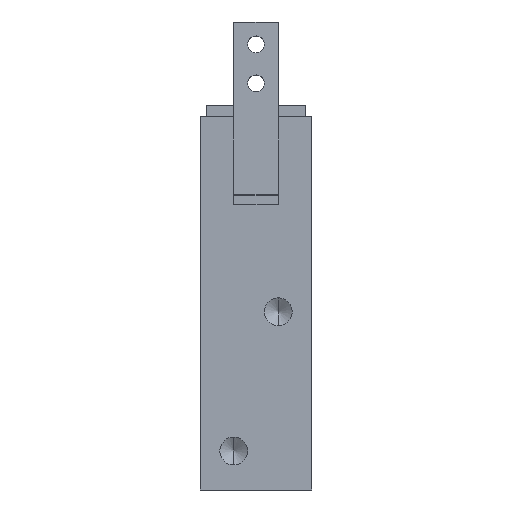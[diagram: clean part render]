
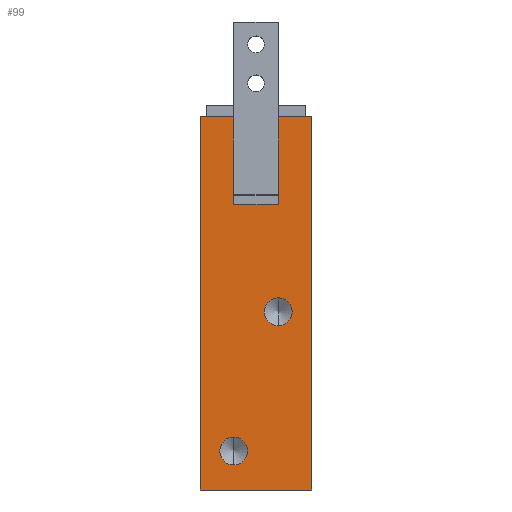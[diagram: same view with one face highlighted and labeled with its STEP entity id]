
A CAD part, front view. The second image highlights one B-rep face of the part: STEP entity #99.
In plain terms, the highlighted planar face has unit normal (0, -1, 0).
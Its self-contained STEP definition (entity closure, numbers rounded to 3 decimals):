
#29 = LINE ( 'NONE', #4638, #1758 ) ;
#99 = ADVANCED_FACE ( 'NONE', ( #607, #3711, #4543 ), #624, .F. ) ;
#125 = LINE ( 'NONE', #330, #4253 ) ;
#180 = LINE ( 'NONE', #2531, #3538 ) ;
#201 = ORIENTED_EDGE ( 'NONE', *, *, #4355, .F. ) ;
#214 = DIRECTION ( 'NONE',  ( 0., -1., 0. ) ) ;
#321 = LINE ( 'NONE', #2600, #3567 ) ;
#328 = EDGE_LOOP ( 'NONE', ( #3831, #1230, #1485, #922, #2419, #2565, #4412, #3338 ) ) ;
#330 = CARTESIAN_POINT ( 'NONE',  ( -10., -19., 67. ) ) ;
#349 = VERTEX_POINT ( 'NONE', #4390 ) ;
#351 = LINE ( 'NONE', #864, #3890 ) ;
#393 = EDGE_CURVE ( 'NONE', #2476, #4490, #3353, .T. ) ;
#494 = CARTESIAN_POINT ( 'NONE',  ( 10., -19., 67. ) ) ;
#534 = DIRECTION ( 'NONE',  ( 0., 0., -1. ) ) ;
#558 = CARTESIAN_POINT ( 'NONE',  ( 4., -19., 51.3 ) ) ;
#568 = CIRCLE ( 'NONE', #3187, 2.5 ) ;
#607 = FACE_BOUND ( 'NONE', #3897, .T. ) ;
#624 = PLANE ( 'NONE',  #3692 ) ;
#723 = DIRECTION ( 'NONE',  ( 1., 0., 0. ) ) ;
#819 = DIRECTION ( 'NONE',  ( -1., 0., 0. ) ) ;
#864 = CARTESIAN_POINT ( 'NONE',  ( 10., -19., 67. ) ) ;
#922 = ORIENTED_EDGE ( 'NONE', *, *, #4479, .F. ) ;
#1007 = DIRECTION ( 'NONE',  ( 0., 1., 0. ) ) ;
#1017 = CARTESIAN_POINT ( 'NONE',  ( -10., -19., 67. ) ) ;
#1061 = EDGE_CURVE ( 'NONE', #4385, #2871, #1727, .T. ) ;
#1072 = CARTESIAN_POINT ( 'NONE',  ( 4., -19., 29.5 ) ) ;
#1077 = AXIS2_PLACEMENT_3D ( 'NONE', #4293, #3639, #3976 ) ;
#1136 = CIRCLE ( 'NONE', #1077, 2.5 ) ;
#1157 = CARTESIAN_POINT ( 'NONE',  ( -4., -19., 7. ) ) ;
#1171 = CARTESIAN_POINT ( 'NONE',  ( -10., -19., 0. ) ) ;
#1230 = ORIENTED_EDGE ( 'NONE', *, *, #2359, .T. ) ;
#1312 = DIRECTION ( 'NONE',  ( 0., 0., -1. ) ) ;
#1468 = CARTESIAN_POINT ( 'NONE',  ( 4., -19., 34.5 ) ) ;
#1485 = ORIENTED_EDGE ( 'NONE', *, *, #2925, .T. ) ;
#1517 = VERTEX_POINT ( 'NONE', #2779 ) ;
#1666 = EDGE_CURVE ( 'NONE', #2275, #349, #29, .T. ) ;
#1727 = CIRCLE ( 'NONE', #3974, 2.5 ) ;
#1758 = VECTOR ( 'NONE', #2495, 1000. ) ;
#1809 = DIRECTION ( 'NONE',  ( 1., 0., 0. ) ) ;
#1862 = VERTEX_POINT ( 'NONE', #2196 ) ;
#1907 = DIRECTION ( 'NONE',  ( 0., 0., -1. ) ) ;
#1940 = DIRECTION ( 'NONE',  ( 0., -1., 0. ) ) ;
#1998 = CIRCLE ( 'NONE', #3399, 2.5 ) ;
#2147 = ORIENTED_EDGE ( 'NONE', *, *, #3148, .F. ) ;
#2148 = CARTESIAN_POINT ( 'NONE',  ( -10., -19., 67. ) ) ;
#2153 = VERTEX_POINT ( 'NONE', #494 ) ;
#2158 = CARTESIAN_POINT ( 'NONE',  ( -4., -19., 4.5 ) ) ;
#2194 = CARTESIAN_POINT ( 'NONE',  ( -4., -19., 51.3 ) ) ;
#2196 = CARTESIAN_POINT ( 'NONE',  ( -4., -19., 67. ) ) ;
#2229 = LINE ( 'NONE', #2148, #2518 ) ;
#2258 = EDGE_CURVE ( 'NONE', #4490, #2153, #2229, .T. ) ;
#2275 = VERTEX_POINT ( 'NONE', #1171 ) ;
#2359 = EDGE_CURVE ( 'NONE', #2476, #3009, #321, .T. ) ;
#2408 = DIRECTION ( 'NONE',  ( -1., 0., 0. ) ) ;
#2419 = ORIENTED_EDGE ( 'NONE', *, *, #2776, .T. ) ;
#2476 = VERTEX_POINT ( 'NONE', #558 ) ;
#2495 = DIRECTION ( 'NONE',  ( 1., 0., 0. ) ) ;
#2518 = VECTOR ( 'NONE', #1809, 1000. ) ;
#2531 = CARTESIAN_POINT ( 'NONE',  ( -10., -19., 67. ) ) ;
#2565 = ORIENTED_EDGE ( 'NONE', *, *, #1666, .T. ) ;
#2575 = DIRECTION ( 'NONE',  ( 0., 0., 1. ) ) ;
#2600 = CARTESIAN_POINT ( 'NONE',  ( 4., -19., 51.3 ) ) ;
#2712 = CARTESIAN_POINT ( 'NONE',  ( -10., -19., 67. ) ) ;
#2776 = EDGE_CURVE ( 'NONE', #3091, #2275, #125, .T. ) ;
#2779 = CARTESIAN_POINT ( 'NONE',  ( -4., -19., 9.5 ) ) ;
#2871 = VERTEX_POINT ( 'NONE', #1468 ) ;
#2880 = CARTESIAN_POINT ( 'NONE',  ( 4., -19., 67. ) ) ;
#2925 = EDGE_CURVE ( 'NONE', #3009, #1862, #3418, .T. ) ;
#2946 = CARTESIAN_POINT ( 'NONE',  ( 4., -19., 51.3 ) ) ;
#3009 = VERTEX_POINT ( 'NONE', #2194 ) ;
#3062 = DIRECTION ( 'NONE',  ( 0., -1., 0. ) ) ;
#3091 = VERTEX_POINT ( 'NONE', #2712 ) ;
#3148 = EDGE_CURVE ( 'NONE', #2871, #4385, #1998, .T. ) ;
#3185 = VECTOR ( 'NONE', #3305, 1000. ) ;
#3187 = AXIS2_PLACEMENT_3D ( 'NONE', #1157, #3062, #4143 ) ;
#3305 = DIRECTION ( 'NONE',  ( 0., 0., 1. ) ) ;
#3338 = ORIENTED_EDGE ( 'NONE', *, *, #2258, .F. ) ;
#3353 = LINE ( 'NONE', #2946, #4414 ) ;
#3399 = AXIS2_PLACEMENT_3D ( 'NONE', #4530, #1940, #534 ) ;
#3418 = LINE ( 'NONE', #4017, #3185 ) ;
#3483 = ORIENTED_EDGE ( 'NONE', *, *, #4023, .F. ) ;
#3538 = VECTOR ( 'NONE', #723, 1000. ) ;
#3567 = VECTOR ( 'NONE', #819, 1000. ) ;
#3639 = DIRECTION ( 'NONE',  ( 0., -1., 0. ) ) ;
#3692 = AXIS2_PLACEMENT_3D ( 'NONE', #1017, #1007, #2408 ) ;
#3711 = FACE_BOUND ( 'NONE', #4077, .T. ) ;
#3772 = DIRECTION ( 'NONE',  ( 0., 0., -1. ) ) ;
#3831 = ORIENTED_EDGE ( 'NONE', *, *, #393, .F. ) ;
#3890 = VECTOR ( 'NONE', #3772, 1000. ) ;
#3897 = EDGE_LOOP ( 'NONE', ( #4423, #2147 ) ) ;
#3974 = AXIS2_PLACEMENT_3D ( 'NONE', #4463, #214, #1907 ) ;
#3976 = DIRECTION ( 'NONE',  ( 0., 0., -1. ) ) ;
#4017 = CARTESIAN_POINT ( 'NONE',  ( -4., -19., 51.3 ) ) ;
#4023 = EDGE_CURVE ( 'NONE', #1517, #4426, #568, .T. ) ;
#4077 = EDGE_LOOP ( 'NONE', ( #201, #3483 ) ) ;
#4083 = EDGE_CURVE ( 'NONE', #2153, #349, #351, .T. ) ;
#4143 = DIRECTION ( 'NONE',  ( 0., 0., -1. ) ) ;
#4253 = VECTOR ( 'NONE', #1312, 1000. ) ;
#4293 = CARTESIAN_POINT ( 'NONE',  ( -4., -19., 7. ) ) ;
#4355 = EDGE_CURVE ( 'NONE', #4426, #1517, #1136, .T. ) ;
#4385 = VERTEX_POINT ( 'NONE', #1072 ) ;
#4390 = CARTESIAN_POINT ( 'NONE',  ( 10., -19., 0. ) ) ;
#4412 = ORIENTED_EDGE ( 'NONE', *, *, #4083, .F. ) ;
#4414 = VECTOR ( 'NONE', #2575, 1000. ) ;
#4423 = ORIENTED_EDGE ( 'NONE', *, *, #1061, .F. ) ;
#4426 = VERTEX_POINT ( 'NONE', #2158 ) ;
#4463 = CARTESIAN_POINT ( 'NONE',  ( 4., -19., 32. ) ) ;
#4479 = EDGE_CURVE ( 'NONE', #3091, #1862, #180, .T. ) ;
#4490 = VERTEX_POINT ( 'NONE', #2880 ) ;
#4530 = CARTESIAN_POINT ( 'NONE',  ( 4., -19., 32. ) ) ;
#4543 = FACE_OUTER_BOUND ( 'NONE', #328, .T. ) ;
#4638 = CARTESIAN_POINT ( 'NONE',  ( -10., -19., 0. ) ) ;
